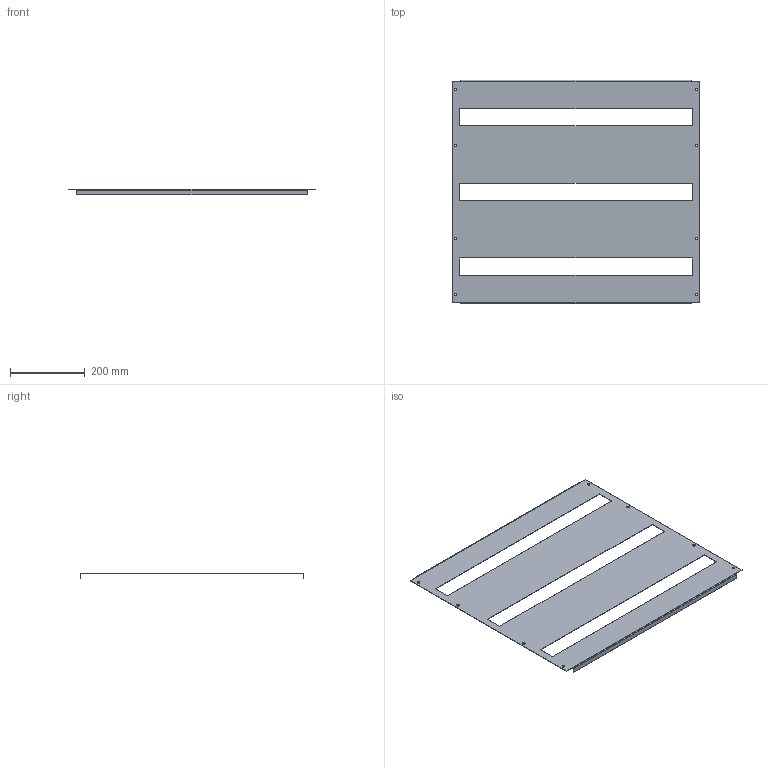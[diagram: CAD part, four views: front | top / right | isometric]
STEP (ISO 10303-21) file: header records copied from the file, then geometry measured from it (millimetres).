
FILE_DESCRIPTION (( 'STEP AP214' ), '1' );
FILE_NAME ('MB 60.70 P Ïàíåëü ìîäóëüíàÿ ñ âûðåçîì.STEP', '2016-07-06T11:02:03', ( '' ), ( '' ), 'SwSTEP 2.0', 'SolidWorks 2012', '' );
FILE_SCHEMA (( 'AUTOMOTIVE_DESIGN' ));
Length unit declared in the file: millimetre
Products named in the file (1): MB 60.70 P Ïàíåëü ìîäóëüíàÿ ñ âûðåçîì
Bounding box: 665 x 599 x 15 mm (x, y, z)
Volume: 393552.3 mm3; surface area: 664044.6 mm2
Topology: 1 solids, 1 shells, 54 faces, 140 edges, 88 vertices
Faces by surface type: plane 34, cylinder 20
Entity records: 1714 total; most frequent: DIRECTION 290, CARTESIAN_POINT 283, ORIENTED_EDGE 280, EDGE_CURVE 140, VECTOR 100, LINE 100, AXIS2_PLACEMENT_3D 95, VERTEX_POINT 88
